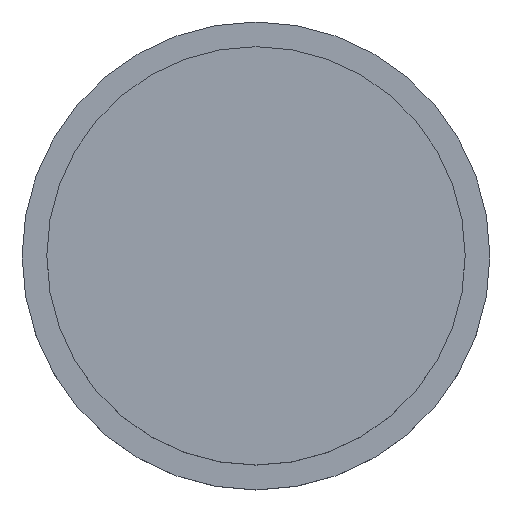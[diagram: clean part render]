
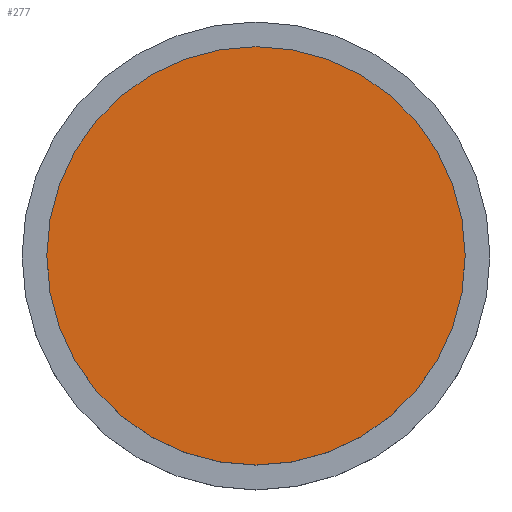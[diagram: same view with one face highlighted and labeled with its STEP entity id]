
A CAD part, top view. The second image highlights one B-rep face of the part: STEP entity #277.
In plain terms, the highlighted planar face has unit normal (0, 0, 1).
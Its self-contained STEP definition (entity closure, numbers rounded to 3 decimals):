
#28 = VERTEX_POINT ( 'NONE', #889 ) ;
#60 = DIRECTION ( 'NONE',  ( 0., 0., 1. ) ) ;
#243 = CARTESIAN_POINT ( 'NONE',  ( 0., 0., 47. ) ) ;
#277 = ADVANCED_FACE ( 'NONE', ( #1710 ), #391, .T. ) ;
#326 = CARTESIAN_POINT ( 'NONE',  ( 0., 0., 47. ) ) ;
#364 = ORIENTED_EDGE ( 'NONE', *, *, #1225, .T. ) ;
#374 = CIRCLE ( 'NONE', #591, 9.5 ) ;
#391 = PLANE ( 'NONE',  #1336 ) ;
#415 = VERTEX_POINT ( 'NONE', #1827 ) ;
#463 = DIRECTION ( 'NONE',  ( 1., 0., 0. ) ) ;
#520 = DIRECTION ( 'NONE',  ( 1., 0., 0. ) ) ;
#591 = AXIS2_PLACEMENT_3D ( 'NONE', #326, #1341, #463 ) ;
#889 = CARTESIAN_POINT ( 'NONE',  ( 9.5, 0., 47. ) ) ;
#920 = CARTESIAN_POINT ( 'NONE',  ( 0., 0., 47. ) ) ;
#961 = DIRECTION ( 'NONE',  ( 0., 0., 1. ) ) ;
#992 = AXIS2_PLACEMENT_3D ( 'NONE', #920, #60, #1067 ) ;
#1042 = ORIENTED_EDGE ( 'NONE', *, *, #1131, .T. ) ;
#1047 = CIRCLE ( 'NONE', #992, 9.5 ) ;
#1067 = DIRECTION ( 'NONE',  ( 1., 0., 0. ) ) ;
#1109 = EDGE_LOOP ( 'NONE', ( #364, #1042 ) ) ;
#1131 = EDGE_CURVE ( 'NONE', #28, #415, #374, .T. ) ;
#1225 = EDGE_CURVE ( 'NONE', #415, #28, #1047, .T. ) ;
#1336 = AXIS2_PLACEMENT_3D ( 'NONE', #243, #961, #520 ) ;
#1341 = DIRECTION ( 'NONE',  ( 0., 0., 1. ) ) ;
#1710 = FACE_OUTER_BOUND ( 'NONE', #1109, .T. ) ;
#1827 = CARTESIAN_POINT ( 'NONE',  ( -9.5, 0., 47. ) ) ;
